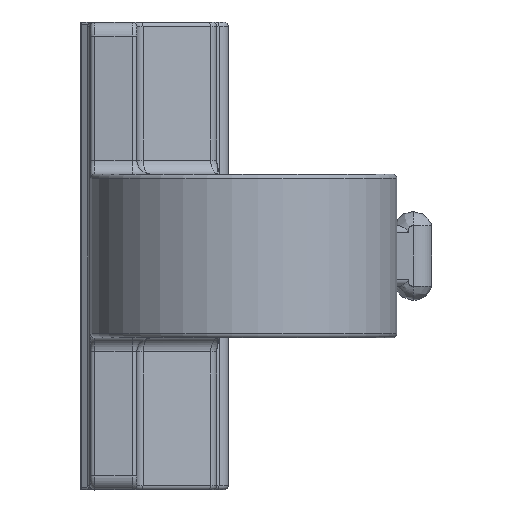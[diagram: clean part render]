
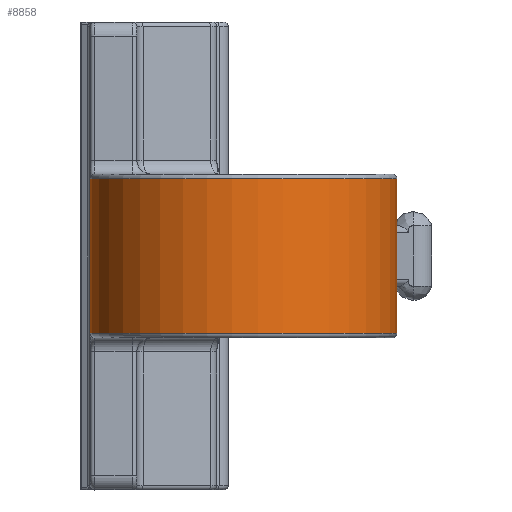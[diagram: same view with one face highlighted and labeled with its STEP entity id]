
A CAD part, front view. The second image highlights one B-rep face of the part: STEP entity #8858.
In plain terms, the highlighted cylindrical face has radius 3.279 mm (diameter 6.557 mm), a partial arc.
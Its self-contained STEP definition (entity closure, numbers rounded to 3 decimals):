
#2455=CARTESIAN_POINT('',(1.779,-17.221,1.65));
#2456=DIRECTION('',(0.,0.,-1.));
#2457=DIRECTION('',(0.982,0.186,0.));
#2458=AXIS2_PLACEMENT_3D('',#2455,#2456,#2457);
#2460=CARTESIAN_POINT('',(1.779,-17.221,-1.65));
#2461=DIRECTION('',(0.,0.,-1.));
#2462=DIRECTION('',(0.982,0.186,0.));
#2463=AXIS2_PLACEMENT_3D('',#2460,#2461,#2462);
#2465=DIRECTION('',(0.,0.,-1.));
#2466=VECTOR('',#2465,3.3);
#2467=CARTESIAN_POINT('',(-1.5,-17.221,1.65));
#2468=LINE('',#2467,#2466);
#3787=DIRECTION('',(0.,0.,-1.));
#3788=VECTOR('',#3787,3.3);
#3789=CARTESIAN_POINT('',(5.,-16.61,1.65));
#3790=LINE('',#3789,#3788);
#4153=CARTESIAN_POINT('',(-1.5,-17.221,1.65));
#4154=VERTEX_POINT('',#4153);
#4157=CARTESIAN_POINT('',(5.,-16.61,1.65));
#4158=VERTEX_POINT('',#4157);
#4202=CARTESIAN_POINT('',(-1.5,-17.221,-1.65));
#4203=VERTEX_POINT('',#4202);
#4206=CARTESIAN_POINT('',(5.,-16.61,-1.65));
#4207=VERTEX_POINT('',#4206);
#8845=CARTESIAN_POINT('',(1.779,-17.221,5.));
#8846=DIRECTION('',(0.,0.,1.));
#8847=DIRECTION('',(1.,0.,0.));
#8848=AXIS2_PLACEMENT_3D('',#8845,#8846,#8847);
#8849=CYLINDRICAL_SURFACE('',#8848,3.279);
#8851=ORIENTED_EDGE('',*,*,#8850,.F.);
#8853=ORIENTED_EDGE('',*,*,#8852,.T.);
#8854=ORIENTED_EDGE('',*,*,#8838,.T.);
#8855=ORIENTED_EDGE('',*,*,#5337,.F.);
#8856=EDGE_LOOP('',(#8851,#8853,#8854,#8855));
#8857=FACE_OUTER_BOUND('',#8856,.F.);
#8858=ADVANCED_FACE('',(#8857),#8849,.T.);
#2459=CIRCLE('',#2458,3.279);
#2464=CIRCLE('',#2463,3.279);
#5337=EDGE_CURVE('',#4154,#4203,#2468,.T.);
#8838=EDGE_CURVE('',#4207,#4203,#2464,.T.);
#8850=EDGE_CURVE('',#4158,#4154,#2459,.T.);
#8852=EDGE_CURVE('',#4158,#4207,#3790,.T.);
